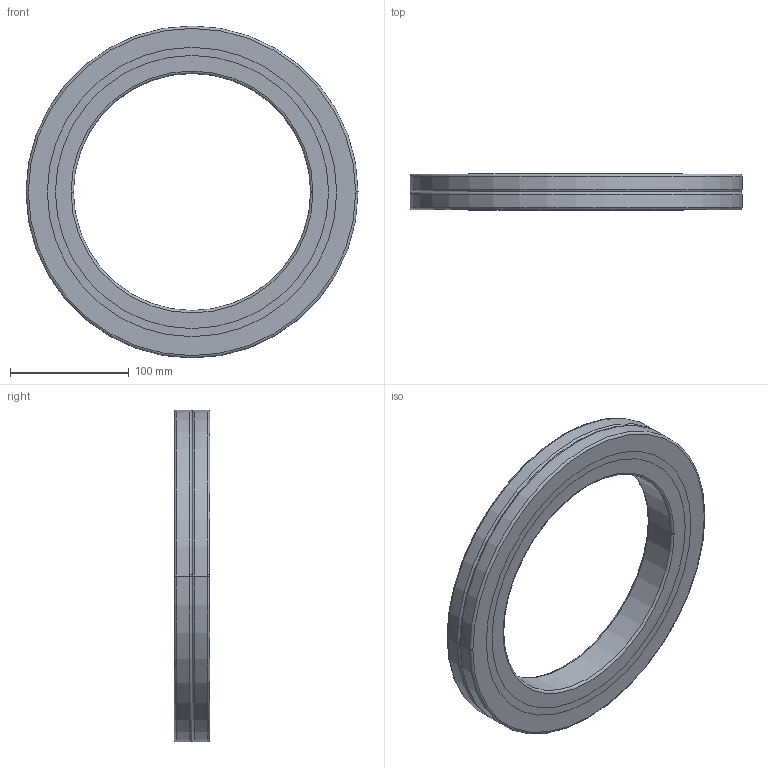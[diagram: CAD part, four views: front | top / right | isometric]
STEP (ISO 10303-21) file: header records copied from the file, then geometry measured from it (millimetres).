
FILE_DESCRIPTION(('no description'),'unknown implementation level');
FILE_NAME('CRBA20030_40.stp',' ',('HIWIN GmbH'),('CADClick - KiM GmbH - www.kimweb.de'),'unknown preprocess','ACIS','unknown authorization');
FILE_SCHEMA(('automotive_design'));
Length unit declared in the file: millimetre
Products named in the file (5): CRBA20030_1; CRBA20030_2; CRBA20030_3; CRBA20030_4; CRBA20030
Bounding box: 280 x 30 x 280 mm (x, y, z)
Volume: 774002.8 mm3; surface area: 193383.9 mm2
Topology: 5 solids, 5 shells, 54 faces, 120 edges, 76 vertices
Faces by surface type: torus 24, cylinder 20, plane 10
Entity records: 3096 total; most frequent: DIRECTION 338, STYLED_ITEM 255, PRESENTATION_STYLE_ASSIGNMENT 255, CARTESIAN_POINT 255, COLOUR_RGB 255, ORIENTED_EDGE 240, AXIS2_PLACEMENT_3D 159, EDGE_CURVE 120
